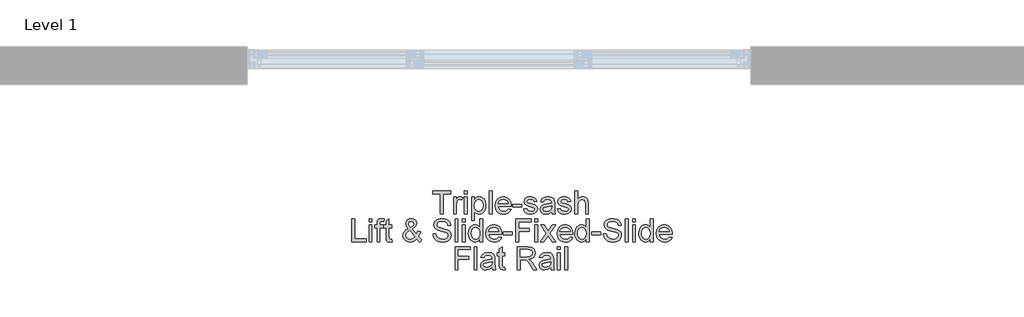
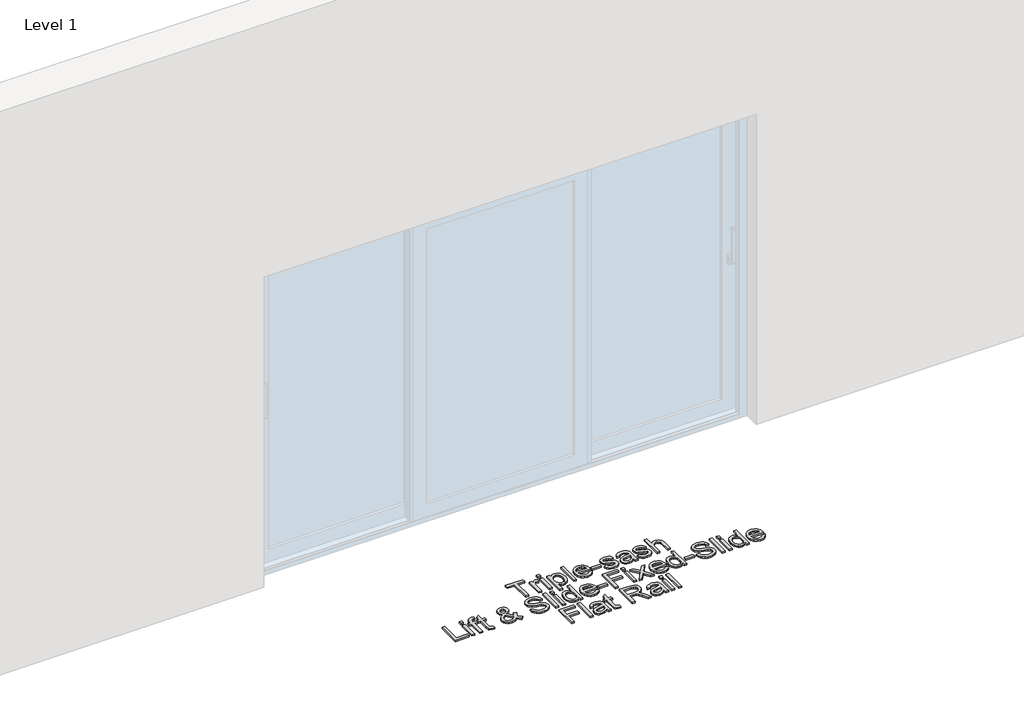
# One storey, part 9 of 11: 1 proxy.
"""IFC4 building model written with IfcOpenShell, lengths in millimetres."""

from ifc_helpers import new_model, si_unit, origin, origin_with_axes, place, context, project, spatial, polyline, outline, extrude, element, save

model = new_model("IFC4")

# Units and contexts
model_context = context("Model", 3, world=origin())
ifc_project = project(units=[si_unit("LENGTHUNIT", "METRE", prefix="MILLI")], contexts=[model_context])

# Site, building, storey
site = spatial("IfcSite", under=ifc_project)
building = spatial("IfcBuilding", under=site)
storey = spatial("IfcBuildingStorey", under=building, Name="Level 1", Elevation=0.0)

# Proxy
placement = place(None, origin())
element("IfcBuildingElementProxy", 1, Name="150mm Arial", ObjectType="150mm Arial", at=placement, inside=storey, context=model_context, shape_type="SweptSolid", body=[
    extrude(outline(polyline([(17344.4318001, -991.3626427), (17344.4318001, -859.5137356), (17294.98846, -859.5137356), (17294.98846, -840.6781775), (17412.7106984, -840.6781775), (17412.7106984, -859.5137356), (17363.2673583, -859.5137356), (17363.2673583, -991.3626427), (17344.4318001, -991.3626427)])), origin_with_axes(), (0.0, 0.0, 1.0), 10.0),
    extrude(outline(polyline([(17431.5462566, -991.3626427), (17431.5462566, -880.7037385), (17448.02737, -880.7037385), (17448.02737, -897.0744873), (17459.7260174, -881.9913255), (17471.4982413, -878.3492938), (17490.4073758, -884.1618293), (17484.1165937, -901.0476129), (17470.8728419, -897.1848519), (17460.2226581, -900.9004601), (17453.4352353, -911.2011559), (17450.3818147, -933.2004992), (17450.3818147, -991.3626427), (17431.5462566, -991.3626427)])), origin_with_axes(), (0.0, 0.0, 1.0), 10.0),
    extrude(outline(polyline([(17502.1795997, -859.5137356), (17502.1795997, -840.6781775), (17521.0151578, -840.6781775), (17521.0151578, -859.5137356), (17502.1795997, -859.5137356)])), origin_with_axes(), (0.0, 0.0, 1.0), 10.0),
    extrude(outline(polyline([(17502.1795997, -991.3626427), (17502.1795997, -880.7037385), (17521.0151578, -880.7037385), (17521.0151578, -991.3626427), (17502.1795997, -991.3626427)])), origin_with_axes(), (0.0, 0.0, 1.0), 10.0),
    extrude(outline(polyline([(17549.268495, -1033.7426485), (17549.268495, -880.7037385), (17568.1040532, -880.7037385), (17568.1040532, -899.1714147), (17581.1270758, -883.554824), (17598.7118352, -878.3492938), (17611.4497493, -880.1703096), (17622.5873767, -885.6333573), (17631.6556679, -894.4073429), (17638.1855733, -906.1611726), (17643.4462858, -935.187062), (17641.9609623, -951.2956949), (17637.5049916, -965.7028735), (17630.2209281, -977.6774325), (17620.251326, -986.4882062), (17608.6400505, -991.9098671), (17596.4309668, -993.7170875), (17580.0418239, -988.8794392), (17568.1040532, -976.6473629), (17568.1040532, -1033.7426485), (17549.268495, -1033.7426485)]), holes=[polyline([(17568.1040532, -936.9161074), (17570.1411997, -953.801891), (17576.2526394, -965.610903), (17585.2703468, -972.5638727), (17596.0262966, -974.8815293), (17606.9569904, -972.4810993), (17616.2046241, -965.2798092), (17622.5092018, -953.0385358), (17624.6107277, -935.5181558), (17622.5597855, -918.7243427), (17616.4069592, -906.7497838), (17607.4030473, -899.5760849), (17596.7988488, -897.1848519), (17586.1532636, -899.7278362), (17576.8044624, -907.3567891), (17570.2791555, -919.8325872), (17568.1040532, -936.9161074)])]), origin_with_axes(), (0.0, 0.0, 1.0), 10.0),
    extrude(outline(polyline([(17664.6362887, -991.3626427), (17664.6362887, -840.6781775), (17683.4718469, -840.6781775), (17683.4718469, -991.3626427), (17664.6362887, -991.3626427)])), origin_with_axes(), (0.0, 0.0, 1.0), 10.0),
    extrude(outline(polyline([(17789.2011323, -958.4004159), (17807.6688085, -960.7548607), (17801.0147429, -974.6699972), (17790.3967488, -985.0718606), (17776.0539495, -991.5557807), (17758.2254683, -993.7170875), (17736.1249574, -989.9876837), (17719.1196122, -978.7994725), (17708.2762904, -960.8790209), (17704.6618498, -936.9528956), (17708.3130786, -912.2220285), (17719.266765, -893.7267612), (17736.042184, -882.1936606), (17757.1586105, -878.3492938), (17777.617448, -882.1844636), (17793.9652041, -893.689973), (17804.6843658, -912.1484521), (17808.2574197, -936.842531), (17808.1470551, -941.9193025), (17723.497408, -941.9193025), (17726.7577621, -956.01838), (17734.3315327, -966.3834552), (17745.2622265, -972.7570108), (17758.5933503, -974.8815293), (17777.0610265, -970.9451919), (17789.2011323, -958.4004159)]), holes=[polyline([(17723.497408, -923.0837444), (17789.4218615, -923.0837444), (17786.8742787, -913.1325364), (17781.8802806, -906.0140198), (17770.899003, -899.3921439), (17757.0850341, -897.1848519), (17744.3885068, -898.946087), (17733.8900743, -904.2297921), (17726.5922152, -912.4657503), (17723.497408, -923.0837444)])]), origin_with_axes(), (0.0, 0.0, 1.0), 10.0),
    extrude(outline(polyline([(17817.6751987, -946.6281921), (17817.6751987, -927.7926339), (17876.536318, -927.7926339), (17876.536318, -946.6281921), (17817.6751987, -946.6281921)])), origin_with_axes(), (0.0, 0.0, 1.0), 10.0),
    extrude(outline(polyline([(17890.6629866, -958.4004159), (17909.4985447, -956.0459711), (17912.4691918, -964.1025868), (17918.217348, -970.025487), (17938.1933403, -974.8815293), (17957.3967805, -970.4301572), (17963.6507744, -959.9823085), (17962.0780789, -955.1814485), (17957.3599923, -951.5210226), (17937.9726112, -946.1499455), (17909.6089093, -936.9345015), (17897.2296802, -926.1739531), (17893.0174313, -910.9804267), (17896.4019457, -896.9457286), (17905.6357838, -886.2219685), (17917.6103427, -880.6485562), (17933.8155446, -878.3492938), (17956.7345929, -882.0465078), (17971.3027199, -892.0528981), (17977.777443, -908.9570758), (17958.9418849, -911.3115205), (17951.8601565, -900.9188542), (17935.2870726, -897.1848519), (17917.2608548, -900.7533073), (17911.8529895, -909.0674404), (17914.0970697, -914.5488821), (17921.1236158, -918.7059486), (17937.3472118, -922.7158624), (17964.9935437, -931.5818185), (17977.8326253, -941.6249969), (17982.4863326, -957.9957457), (17977.0232849, -976.0219635), (17961.2595414, -989.1001684), (17937.935823, -993.7170875), (17918.943915, -991.4914014), (17905.0839608, -984.8143432), (17895.8317286, -973.7594892), (17890.6629866, -958.4004159)])), origin_with_axes(), (0.0, 0.0, 1.0), 10.0),
    extrude(outline(polyline([(18074.3096786, -977.2359741), (18056.0443375, -990.0014793), (18035.8660101, -993.7170875), (18020.1252592, -991.4822043), (18008.5139837, -984.777555), (18001.3540804, -974.5964208), (17998.967446, -961.9320831), (18002.5726895, -947.0328623), (18012.0456509, -936.2171316), (18025.2342204, -930.0367141), (18041.5313928, -927.2040227), (18074.199314, -920.7292996), (18074.3096786, -916.5354449), (18073.0128945, -908.1293413), (18069.1225424, -902.6295054), (18060.4221332, -898.5460153), (18048.3004215, -897.1848519), (18029.2441342, -900.8084896), (18020.1574489, -913.6659653), (18001.3218907, -911.3115205), (18009.4704769, -892.9174208), (18025.8780139, -882.1384783), (18050.7284427, -878.3492938), (18073.5555205, -881.6970199), (18086.4497844, -890.1031235), (18092.2255317, -902.8870228), (18093.1452367, -919.3681362), (18093.1452367, -942.8022193), (18094.1017299, -975.5253228), (18097.8541263, -991.3626427), (18079.0185681, -991.3626427), (18074.3096786, -977.2359741)]), holes=[polyline([(18074.3096786, -939.5648578), (18043.9226258, -945.3406051), (18027.7174239, -948.3940256), (18020.3781781, -953.3604326), (18017.8030041, -960.6077079), (18023.4132045, -970.7980392), (18039.8759238, -974.8815293), (18058.9322112, -970.3749749), (18071.2194698, -959.4672737), (18074.199314, -944.8991467), (18074.3096786, -939.5648578)])]), origin_with_axes(), (0.0, 0.0, 1.0), 10.0),
    extrude(outline(polyline([(18111.9807949, -958.4004159), (18130.816353, -956.0459711), (18133.7870001, -964.1025868), (18139.5351563, -970.025487), (18159.5111486, -974.8815293), (18178.7145888, -970.4301572), (18184.9685827, -959.9823085), (18183.3958872, -955.1814485), (18178.6778006, -951.5210226), (18159.2904195, -946.1499455), (18130.9267176, -936.9345015), (18118.5474885, -926.1739531), (18114.3352396, -910.9804267), (18117.719754, -896.9457286), (18126.9535921, -886.2219685), (18138.928151, -880.6485562), (18155.1333529, -878.3492938), (18178.0524012, -882.0465078), (18192.6205282, -892.0528981), (18199.0952513, -908.9570758), (18180.2596932, -911.3115205), (18173.1779648, -900.9188542), (18156.6048809, -897.1848519), (18138.5786631, -900.7533073), (18133.1707978, -909.0674404), (18135.414878, -914.5488821), (18142.4414241, -918.7059486), (18158.6650201, -922.7158624), (18186.311352, -931.5818185), (18199.1504336, -941.6249969), (18203.8041409, -957.9957457), (18198.3410932, -976.0219635), (18182.5773497, -989.1001684), (18159.2536313, -993.7170875), (18140.2617232, -991.4914014), (18126.4017691, -984.8143432), (18117.1495369, -973.7594892), (18111.9807949, -958.4004159)])), origin_with_axes(), (0.0, 0.0, 1.0), 10.0),
    extrude(outline(polyline([(18224.9941438, -991.3626427), (18224.9941438, -840.6781775), (18243.8297019, -840.6781775), (18243.8297019, -896.0812059), (18258.5173906, -882.7822718), (18276.6079877, -878.3492938), (18297.7612024, -883.186942), (18310.6002841, -896.5594525), (18314.463045, -921.3179108), (18314.463045, -991.3626427), (18295.6274869, -991.3626427), (18295.6274869, -923.2676854), (18294.1283677, -911.4770674), (18289.6310103, -903.4020576), (18282.383735, -898.7391533), (18272.6348622, -897.1848519), (18257.2022125, -901.3787067), (18246.9015166, -912.7462603), (18243.8297019, -932.5750999), (18243.8297019, -991.3626427), (18224.9941438, -991.3626427)])), origin_with_axes(), (0.0, 0.0, 1.0), 10.0),
    extrude(outline(polyline([(16765.2383869, -1174.3248694), (16765.2383869, -1023.6404042), (16784.0739451, -1023.6404042), (16784.0739451, -1155.4893113), (16859.4161777, -1155.4893113), (16859.4161777, -1174.3248694), (16765.2383869, -1174.3248694)])), origin_with_axes(), (0.0, 0.0, 1.0), 10.0),
    extrude(outline(polyline([(16878.2517358, -1042.4759624), (16878.2517358, -1023.6404042), (16897.087294, -1023.6404042), (16897.087294, -1042.4759624), (16878.2517358, -1042.4759624)])), origin_with_axes(), (0.0, 0.0, 1.0), 10.0),
    extrude(outline(polyline([(16878.2517358, -1174.3248694), (16878.2517358, -1063.6659653), (16897.087294, -1063.6659653), (16897.087294, -1174.3248694), (16878.2517358, -1174.3248694)])), origin_with_axes(), (0.0, 0.0, 1.0), 10.0),
    extrude(outline(polyline([(16930.0495208, -1174.3248694), (16930.0495208, -1082.5015235), (16913.5684074, -1082.5015235), (16913.5684074, -1063.6659653), (16930.0495208, -1063.6659653), (16930.0495208, -1052.5191408), (16932.0360835, -1036.8105797), (16941.6745918, -1025.5901788), (16960.6573028, -1021.2859595), (16977.8373919, -1023.3460986), (16975.078277, -1041.0044344), (16964.2257581, -1040.1215176), (16952.3615638, -1043.2485146), (16948.8850789, -1054.9103738), (16948.8850789, -1063.6659653), (16970.0750818, -1063.6659653), (16970.0750818, -1082.5015235), (16948.8850789, -1082.5015235), (16948.8850789, -1174.3248694), (16930.0495208, -1174.3248694)])), origin_with_axes(), (0.0, 0.0, 1.0), 10.0),
    extrude(outline(polyline([(17026.5817563, -1158.6163083), (17028.9362011, -1174.8766924), (17014.8463207, -1176.6793142), (16999.0641831, -1173.5523173), (16991.1915084, -1165.3485488), (16988.91064, -1143.9746048), (16988.91064, -1082.5015235), (16974.7839714, -1082.5015235), (16974.7839714, -1063.6659653), (16988.91064, -1063.6659653), (16988.91064, -1036.7737915), (17007.7461981, -1025.7005434), (17007.7461981, -1063.6659653), (17026.5817563, -1063.6659653), (17026.5817563, -1082.5015235), (17007.7461981, -1082.5015235), (17007.7461981, -1143.4227819), (17008.7394795, -1153.1348665), (17011.958447, -1156.5745632), (17018.3779878, -1157.8437561), (17026.5817563, -1158.6163083)])), origin_with_axes(), (0.0, 0.0, 1.0), 10.0),
    extrude(outline(polyline([(17190.6939143, -1155.7100405), (17170.717922, -1171.4369958), (17147.3574153, -1176.6793142), (17126.5720826, -1172.7981592), (17110.5692158, -1161.154694), (17102.3194621, -1147.7545923), (17099.5695441, -1132.8645686), (17101.7814346, -1119.666802), (17108.4171061, -1107.8118047), (17119.4489675, -1097.3087738), (17134.8494275, -1088.1669062), (17121.6976462, -1069.1106188), (17118.4051023, -1054.9839502), (17120.9986704, -1042.2644302), (17128.7793746, -1031.3291379), (17140.4872191, -1023.7967541), (17154.862208, -1021.2859595), (17168.5382212, -1023.6863895), (17179.4735135, -1030.8876795), (17186.6472124, -1041.4550898), (17189.0384454, -1053.9538806), (17187.2680133, -1064.4477145), (17181.956717, -1074.1506022), (17160.7115317, -1091.1835385), (17187.9715876, -1125.1390467), (17196.1017797, -1104.2801376), (17214.9373378, -1108.3636277), (17201.6200096, -1139.3760799), (17224.3551169, -1162.1847636), (17210.2284483, -1176.6793142), (17190.6939143, -1155.7100405)]), holes=[polyline([(17151.1833881, -1079.3009501), (17166.6712201, -1067.6206967), (17170.2028872, -1056.5290546), (17165.54918, -1044.7016484), (17153.9057148, -1040.1215176), (17142.0047323, -1044.6648602), (17137.2406604, -1055.7565024), (17138.8593412, -1062.6542898), (17143.7521718, -1070.3246294), (17151.1833881, -1079.3009501)]), polyline([(17178.0755619, -1142.1351949), (17144.4511476, -1100.1598592), (17123.7577853, -1115.9419968), (17118.4051023, -1130.362971), (17120.2353152, -1139.2473212), (17125.725954, -1148.4627652), (17134.573516, -1155.4985083), (17146.4744985, -1157.8437561), (17163.7833464, -1153.4659603), (17178.0755619, -1142.1351949)])]), origin_with_axes(), (0.0, 0.0, 1.0), 10.0),
    extrude(outline(polyline([(17297.3429048, -1122.5270845), (17316.1784629, -1122.5270845), (17322.2485158, -1141.3810368), (17337.0741602, -1153.3004134), (17359.6621147, -1157.8437561), (17379.3438015, -1154.4040594), (17392.0541244, -1144.9494921), (17396.2295851, -1132.3127456), (17393.1025881, -1120.5589159), (17380.3002947, -1112.0056595), (17352.8746919, -1104.8135665), (17323.3521618, -1095.5245461), (17307.3309009, -1081.5082421), (17302.0517943, -1062.7830485), (17303.6842706, -1051.7511872), (17308.5816997, -1041.4642869), (17316.6153228, -1032.7454836), (17327.6563812, -1026.4179133), (17355.5786246, -1021.2859595), (17385.3770662, -1026.6570366), (17396.7998021, -1033.2881095), (17405.2426939, -1042.4391742), (17410.5861799, -1053.5400134), (17412.7106984, -1066.0204101), (17393.8751403, -1066.0204101), (17390.4170495, -1054.7816151), (17383.2065624, -1046.6698171), (17371.9401763, -1041.7585925), (17356.3143886, -1040.1215176), (17340.3207188, -1041.7401984), (17329.3486383, -1046.5962407), (17323.0026739, -1053.7423485), (17320.8873524, -1062.2312255), (17322.3864716, -1069.4693038), (17326.883829, -1075.2910363), (17357.6387638, -1085.8124614), (17390.9688725, -1095.2670287), (17401.7064283, -1102.1004367), (17409.1974254, -1110.5341315), (17413.5982138, -1120.4761424), (17415.0651432, -1131.834499), (17413.3774846, -1143.4457745), (17408.3145086, -1154.3672712), (17400.083149, -1163.7666562), (17388.8903393, -1170.8115964), (17375.4304568, -1175.2123848), (17360.3978787, -1176.6793142), (17341.9439981, -1175.0974216), (17326.7550703, -1170.3517439), (17314.6563511, -1162.4238869), (17305.4730968, -1151.2954566), (17299.5777879, -1137.739005), (17297.3429048, -1122.5270845)])), origin_with_axes(), (0.0, 0.0, 1.0), 10.0),
    extrude(outline(polyline([(17440.9640357, -1174.3248694), (17440.9640357, -1023.6404042), (17459.7995938, -1023.6404042), (17459.7995938, -1174.3248694), (17440.9640357, -1174.3248694)])), origin_with_axes(), (0.0, 0.0, 1.0), 10.0),
    extrude(outline(polyline([(17488.0529311, -1042.4759624), (17488.0529311, -1023.6404042), (17506.8884892, -1023.6404042), (17506.8884892, -1042.4759624), (17488.0529311, -1042.4759624)])), origin_with_axes(), (0.0, 0.0, 1.0), 10.0),
    extrude(outline(polyline([(17488.0529311, -1174.3248694), (17488.0529311, -1063.6659653), (17506.8884892, -1063.6659653), (17506.8884892, -1174.3248694), (17488.0529311, -1174.3248694)])), origin_with_axes(), (0.0, 0.0, 1.0), 10.0),
    extrude(outline(polyline([(17603.4207247, -1174.3248694), (17603.4207247, -1156.5561691), (17590.9587222, -1171.6485279), (17573.7326477, -1176.6793142), (17561.5557537, -1174.8582983), (17550.4089292, -1169.3952507), (17540.9727561, -1160.6718489), (17533.9278158, -1149.0697705), (17529.5408231, -1135.058065), (17528.0784921, -1119.105782), (17533.4679634, -1089.1233994), (17540.2002039, -1077.2316139), (17549.6179829, -1068.4852194), (17561.0085292, -1063.1049453), (17573.6590713, -1061.3115205), (17591.0231015, -1066.4434744), (17603.4207247, -1079.7791967), (17603.4207247, -1023.6404042), (17622.2562829, -1023.6404042), (17622.2562829, -1174.3248694), (17603.4207247, -1174.3248694)]), holes=[polyline([(17546.9140503, -1119.0322056), (17549.0385688, -1136.0697405), (17555.4121244, -1148.1868537), (17564.6735536, -1155.4295305), (17575.4616931, -1157.8437561), (17586.2452341, -1155.5398951), (17595.2721385, -1148.6283121), (17601.3835782, -1136.9802484), (17603.4207247, -1120.4669454), (17601.34679, -1102.4131364), (17595.1249857, -1089.8959516), (17585.868155, -1082.5842969), (17574.6891409, -1080.1470787), (17563.7906368, -1082.4877279), (17554.8603014, -1089.5096755), (17548.9006131, -1101.5716064), (17546.9140503, -1119.0322056)])]), origin_with_axes(), (0.0, 0.0, 1.0), 10.0),
    extrude(outline(polyline([(17727.9855683, -1141.3626427), (17746.4532445, -1143.7170875), (17739.7991789, -1157.6322239), (17729.1811848, -1168.0340873), (17714.8383855, -1174.5180075), (17697.0099043, -1176.6793142), (17674.9093935, -1172.9499105), (17657.9040482, -1161.7616993), (17647.0607264, -1143.8412476), (17643.4462858, -1119.9151224), (17647.0975146, -1095.1842552), (17658.051201, -1076.6889879), (17674.82662, -1065.1558874), (17695.9430465, -1061.3115205), (17716.401884, -1065.1466903), (17732.7496401, -1076.6521997), (17743.4688018, -1095.1106788), (17747.0418557, -1119.8047578), (17746.9314911, -1124.8815293), (17662.281844, -1124.8815293), (17665.5421981, -1138.9806068), (17673.1159687, -1149.345682), (17684.0466625, -1155.7192375), (17697.3777863, -1157.8437561), (17715.8454625, -1153.9074187), (17727.9855683, -1141.3626427)]), holes=[polyline([(17662.281844, -1106.0459711), (17728.2062975, -1106.0459711), (17725.6587147, -1096.0947632), (17720.6647166, -1088.9762466), (17709.683439, -1082.3543707), (17695.8694701, -1080.1470787), (17683.1729428, -1081.9083137), (17672.6745103, -1087.1920189), (17665.3766513, -1095.4279771), (17662.281844, -1106.0459711)])]), origin_with_axes(), (0.0, 0.0, 1.0), 10.0),
    extrude(outline(polyline([(17756.4596347, -1129.5904188), (17756.4596347, -1110.7548607), (17815.320754, -1110.7548607), (17815.320754, -1129.5904188), (17756.4596347, -1129.5904188)])), origin_with_axes(), (0.0, 0.0, 1.0), 10.0),
    extrude(outline(polyline([(17838.8652017, -1174.3248694), (17838.8652017, -1023.6404042), (17940.1063267, -1023.6404042), (17940.1063267, -1042.4759624), (17857.7007598, -1042.4759624), (17857.7007598, -1087.210413), (17928.3341029, -1087.210413), (17928.3341029, -1106.0459711), (17857.7007598, -1106.0459711), (17857.7007598, -1174.3248694), (17838.8652017, -1174.3248694)])), origin_with_axes(), (0.0, 0.0, 1.0), 10.0),
    extrude(outline(polyline([(17963.6507744, -1042.4759624), (17963.6507744, -1023.6404042), (17982.4863326, -1023.6404042), (17982.4863326, -1042.4759624), (17963.6507744, -1042.4759624)])), origin_with_axes(), (0.0, 0.0, 1.0), 10.0),
    extrude(outline(polyline([(17963.6507744, -1174.3248694), (17963.6507744, -1063.6659653), (17982.4863326, -1063.6659653), (17982.4863326, -1174.3248694), (17963.6507744, -1174.3248694)])), origin_with_axes(), (0.0, 0.0, 1.0), 10.0),
    extrude(outline(polyline([(17998.967446, -1174.3248694), (18039.2137362, -1118.7011118), (18001.3218907, -1063.6659653), (18023.9834216, -1063.6659653), (18042.2671568, -1090.153469), (18050.8020191, -1102.6614568), (18058.1964472, -1092.4343373), (18079.0185681, -1063.6659653), (18101.680099, -1063.6659653), (18061.8752671, -1118.7011118), (18100.208571, -1174.3248694), (18077.5470401, -1174.3248694), (18054.480839, -1140.8843961), (18050.2501961, -1134.777555), (18021.6289769, -1174.3248694), (17998.967446, -1174.3248694)])), origin_with_axes(), (0.0, 0.0, 1.0), 10.0),
    extrude(outline(polyline([(18194.1656326, -1141.3626427), (18212.6333088, -1143.7170875), (18205.9792432, -1157.6322239), (18195.3612491, -1168.0340873), (18181.0184498, -1174.5180075), (18163.1899686, -1176.6793142), (18141.0894577, -1172.9499105), (18124.0841125, -1161.7616993), (18113.2407907, -1143.8412476), (18109.6263501, -1119.9151224), (18113.2775789, -1095.1842552), (18124.2312653, -1076.6889879), (18141.0066843, -1065.1558874), (18162.1231108, -1061.3115205), (18182.5819483, -1065.1466903), (18198.9297044, -1076.6521997), (18209.6488661, -1095.1106788), (18213.2219199, -1119.8047578), (18213.1115553, -1124.8815293), (18128.4619083, -1124.8815293), (18131.7222624, -1138.9806068), (18139.296033, -1149.345682), (18150.2267268, -1155.7192375), (18163.5578506, -1157.8437561), (18182.0255268, -1153.9074187), (18194.1656326, -1141.3626427)]), holes=[polyline([(18128.4619083, -1106.0459711), (18194.3863618, -1106.0459711), (18191.838779, -1096.0947632), (18186.8447809, -1088.9762466), (18175.8635033, -1082.3543707), (18162.0495344, -1080.1470787), (18149.3530071, -1081.9083137), (18138.8545746, -1087.1920189), (18131.5567155, -1095.4279771), (18128.4619083, -1106.0459711)])]), origin_with_axes(), (0.0, 0.0, 1.0), 10.0),
    extrude(outline(polyline([(18300.3363764, -1174.3248694), (18300.3363764, -1156.5561691), (18287.8743738, -1171.6485279), (18270.6482994, -1176.6793142), (18258.4714053, -1174.8582983), (18247.3245809, -1169.3952507), (18237.8884077, -1160.6718489), (18230.8434675, -1149.0697705), (18226.4564747, -1135.058065), (18224.9941438, -1119.105782), (18230.383615, -1089.1233994), (18237.1158555, -1077.2316139), (18246.5336346, -1068.4852194), (18257.9241809, -1063.1049453), (18270.574723, -1061.3115205), (18287.9387532, -1066.4434744), (18300.3363764, -1079.7791967), (18300.3363764, -1023.6404042), (18319.1719346, -1023.6404042), (18319.1719346, -1174.3248694), (18300.3363764, -1174.3248694)]), holes=[polyline([(18243.8297019, -1119.0322056), (18245.9542205, -1136.0697405), (18252.327776, -1148.1868537), (18261.5892053, -1155.4295305), (18272.3773448, -1157.8437561), (18283.1608858, -1155.5398951), (18292.1877902, -1148.6283121), (18298.2992299, -1136.9802484), (18300.3363764, -1120.4669454), (18298.2624417, -1102.4131364), (18292.0406374, -1089.8959516), (18282.7838067, -1082.5842969), (18271.6047926, -1080.1470787), (18260.7062885, -1082.4877279), (18251.775953, -1089.5096755), (18245.8162647, -1101.5716064), (18243.8297019, -1119.0322056)])]), origin_with_axes(), (0.0, 0.0, 1.0), 10.0),
    extrude(outline(polyline([(18338.0074927, -1129.5904188), (18338.0074927, -1110.7548607), (18396.8686119, -1110.7548607), (18396.8686119, -1129.5904188), (18338.0074927, -1129.5904188)])), origin_with_axes(), (0.0, 0.0, 1.0), 10.0),
    extrude(outline(polyline([(18413.3497253, -1122.5270845), (18432.1852835, -1122.5270845), (18438.2553364, -1141.3810368), (18453.0809808, -1153.3004134), (18475.6689353, -1157.8437561), (18495.350622, -1154.4040594), (18508.060945, -1144.9494921), (18512.2364056, -1132.3127456), (18509.1094087, -1120.5589159), (18496.3071152, -1112.0056595), (18468.8815125, -1104.8135665), (18439.3589824, -1095.5245461), (18423.3377215, -1081.5082421), (18418.0586149, -1062.7830485), (18419.6910912, -1051.7511872), (18424.5885203, -1041.4642869), (18432.6221433, -1032.7454836), (18443.6632017, -1026.4179133), (18471.5854452, -1021.2859595), (18501.3838868, -1026.6570366), (18512.8066227, -1033.2881095), (18521.2495145, -1042.4391742), (18526.5930005, -1053.5400134), (18528.717519, -1066.0204101), (18509.8819609, -1066.0204101), (18506.4238701, -1054.7816151), (18499.213383, -1046.6698171), (18487.9469969, -1041.7585925), (18472.3212091, -1040.1215176), (18456.3275394, -1041.7401984), (18445.3554589, -1046.5962407), (18439.0094945, -1053.7423485), (18436.894173, -1062.2312255), (18438.3932921, -1069.4693038), (18442.8906495, -1075.2910363), (18473.6455843, -1085.8124614), (18506.9756931, -1095.2670287), (18517.7132488, -1102.1004367), (18525.204246, -1110.5341315), (18529.6050343, -1120.4761424), (18531.0719638, -1131.834499), (18529.3843051, -1143.4457745), (18524.3213292, -1154.3672712), (18516.0899695, -1163.7666562), (18504.8971598, -1170.8115964), (18491.4372773, -1175.2123848), (18476.4046993, -1176.6793142), (18457.9508187, -1175.0974216), (18442.7618908, -1170.3517439), (18430.6631717, -1162.4238869), (18421.4799174, -1151.2954566), (18415.5846084, -1137.739005), (18413.3497253, -1122.5270845)])), origin_with_axes(), (0.0, 0.0, 1.0), 10.0),
    extrude(outline(polyline([(18556.9708562, -1174.3248694), (18556.9708562, -1023.6404042), (18575.8064144, -1023.6404042), (18575.8064144, -1174.3248694), (18556.9708562, -1174.3248694)])), origin_with_axes(), (0.0, 0.0, 1.0), 10.0),
    extrude(outline(polyline([(18604.0597516, -1042.4759624), (18604.0597516, -1023.6404042), (18622.8953098, -1023.6404042), (18622.8953098, -1042.4759624), (18604.0597516, -1042.4759624)])), origin_with_axes(), (0.0, 0.0, 1.0), 10.0),
    extrude(outline(polyline([(18604.0597516, -1174.3248694), (18604.0597516, -1063.6659653), (18622.8953098, -1063.6659653), (18622.8953098, -1174.3248694), (18604.0597516, -1174.3248694)])), origin_with_axes(), (0.0, 0.0, 1.0), 10.0),
    extrude(outline(polyline([(18719.4275453, -1174.3248694), (18719.4275453, -1156.5561691), (18706.9655427, -1171.6485279), (18689.7394683, -1176.6793142), (18677.5625743, -1174.8582983), (18666.4157498, -1169.3952507), (18656.9795766, -1160.6718489), (18649.9346364, -1149.0697705), (18645.5476436, -1135.058065), (18644.0853127, -1119.105782), (18649.4747839, -1089.1233994), (18656.2070244, -1077.2316139), (18665.6248035, -1068.4852194), (18677.0153498, -1063.1049453), (18689.6658919, -1061.3115205), (18707.0299221, -1066.4434744), (18719.4275453, -1079.7791967), (18719.4275453, -1023.6404042), (18738.2631035, -1023.6404042), (18738.2631035, -1174.3248694), (18719.4275453, -1174.3248694)]), holes=[polyline([(18662.9208708, -1119.0322056), (18665.0453894, -1136.0697405), (18671.4189449, -1148.1868537), (18680.6803742, -1155.4295305), (18691.4685137, -1157.8437561), (18702.2520547, -1155.5398951), (18711.2789591, -1148.6283121), (18717.3903988, -1136.9802484), (18719.4275453, -1120.4669454), (18717.3536106, -1102.4131364), (18711.1318063, -1089.8959516), (18701.8749756, -1082.5842969), (18690.6959615, -1080.1470787), (18679.7974574, -1082.4877279), (18670.8671219, -1089.5096755), (18664.9074336, -1101.5716064), (18662.9208708, -1119.0322056)])]), origin_with_axes(), (0.0, 0.0, 1.0), 10.0),
    extrude(outline(polyline([(18843.9923889, -1141.3626427), (18862.460065, -1143.7170875), (18855.8059994, -1157.6322239), (18845.1880054, -1168.0340873), (18830.8452061, -1174.5180075), (18813.0167249, -1176.6793142), (18790.916214, -1172.9499105), (18773.9108688, -1161.7616993), (18763.067547, -1143.8412476), (18759.4531064, -1119.9151224), (18763.1043352, -1095.1842552), (18774.0580216, -1076.6889879), (18790.8334406, -1065.1558874), (18811.9498671, -1061.3115205), (18832.4087045, -1065.1466903), (18848.7564607, -1076.6521997), (18859.4756223, -1095.1106788), (18863.0486762, -1119.8047578), (18862.9383116, -1124.8815293), (18778.2886645, -1124.8815293), (18781.5490187, -1138.9806068), (18789.1227893, -1149.345682), (18800.0534831, -1155.7192375), (18813.3846069, -1157.8437561), (18831.852283, -1153.9074187), (18843.9923889, -1141.3626427)]), holes=[polyline([(18778.2886645, -1106.0459711), (18844.2131181, -1106.0459711), (18841.6655353, -1096.0947632), (18836.6715372, -1088.9762466), (18825.6902596, -1082.3543707), (18811.8762907, -1080.1470787), (18799.1797633, -1081.9083137), (18788.6813309, -1087.1920189), (18781.3834718, -1095.4279771), (18778.2886645, -1106.0459711)])]), origin_with_axes(), (0.0, 0.0, 1.0), 10.0),
    extrude(outline(polyline([(17440.9640357, -1357.2870962), (17440.9640357, -1206.602631), (17542.2051607, -1206.602631), (17542.2051607, -1225.4381891), (17459.7995938, -1225.4381891), (17459.7995938, -1270.1726398), (17530.4329369, -1270.1726398), (17530.4329369, -1289.0081979), (17459.7995938, -1289.0081979), (17459.7995938, -1357.2870962), (17440.9640357, -1357.2870962)])), origin_with_axes(), (0.0, 0.0, 1.0), 10.0),
    extrude(outline(polyline([(17565.7496084, -1357.2870962), (17565.7496084, -1206.602631), (17584.5851666, -1206.602631), (17584.5851666, -1357.2870962), (17565.7496084, -1357.2870962)])), origin_with_axes(), (0.0, 0.0, 1.0), 10.0),
    extrude(outline(polyline([(17683.4718469, -1343.1604276), (17665.2065058, -1355.9259328), (17645.0281784, -1359.641541), (17629.2874275, -1357.4066579), (17617.6761521, -1350.7020085), (17610.5162487, -1340.5208743), (17608.1296143, -1327.8565366), (17611.7348578, -1312.9573158), (17621.2078192, -1302.1415851), (17634.3963887, -1295.9611676), (17650.6935611, -1293.1284763), (17683.3614823, -1286.6537531), (17683.4718469, -1282.4598984), (17682.1750629, -1274.0537948), (17678.2847108, -1268.553959), (17669.5843016, -1264.4704688), (17657.4625898, -1263.1093055), (17638.4063025, -1266.7329431), (17629.3196172, -1279.5904188), (17610.484059, -1277.2359741), (17618.6326452, -1258.8418743), (17635.0401822, -1248.0629318), (17659.890611, -1244.2737473), (17682.7176888, -1247.6214735), (17695.6119527, -1256.027577), (17701.3877001, -1268.8114764), (17702.307405, -1285.2925898), (17702.307405, -1308.7266729), (17703.2638982, -1341.4497763), (17707.0162946, -1357.2870962), (17688.1807364, -1357.2870962), (17683.4718469, -1343.1604276)]), holes=[polyline([(17683.4718469, -1305.4893113), (17653.0847941, -1311.2650586), (17636.8795922, -1314.3184792), (17629.5403464, -1319.2848861), (17626.9651724, -1326.5321614), (17632.5753729, -1336.7224927), (17649.0380921, -1340.8059828), (17668.0943795, -1336.2994284), (17680.3816381, -1325.3917272), (17683.3614823, -1310.8236002), (17683.4718469, -1305.4893113)])]), origin_with_axes(), (0.0, 0.0, 1.0), 10.0),
    extrude(outline(polyline([(17768.2318586, -1341.578535), (17770.5863033, -1357.8389192), (17756.4964229, -1359.641541), (17740.7142853, -1356.514544), (17732.8416106, -1348.3107755), (17730.5607423, -1326.9368316), (17730.5607423, -1265.4637502), (17716.4340737, -1265.4637502), (17716.4340737, -1246.6281921), (17730.5607423, -1246.6281921), (17730.5607423, -1219.7360182), (17749.3963004, -1208.6627702), (17749.3963004, -1246.6281921), (17768.2318586, -1246.6281921), (17768.2318586, -1265.4637502), (17749.3963004, -1265.4637502), (17749.3963004, -1326.3850086), (17750.3895818, -1336.0970933), (17753.6085493, -1339.5367899), (17760.0280901, -1340.8059828), (17768.2318586, -1341.578535)])), origin_with_axes(), (0.0, 0.0, 1.0), 10.0),
    extrude(outline(polyline([(17848.2829807, -1357.2870962), (17848.2829807, -1206.602631), (17913.2141529, -1206.602631), (17943.3620824, -1210.667727), (17952.6419057, -1216.2963216), (17959.8431958, -1225.0519131), (17964.4647133, -1235.9090304), (17966.0052192, -1247.8422027), (17963.4530378, -1262.6862412), (17955.7964938, -1274.9918939), (17942.8056609, -1284.0141998), (17924.2506127, -1289.0081979), (17934.9559788, -1297.0648136), (17950.2230816, -1316.4521948), (17975.3494219, -1357.2870962), (17953.4604431, -1357.2870962), (17933.8523328, -1326.0539148), (17919.688876, -1305.3789467), (17909.737668, -1295.6116797), (17900.7797414, -1292.0248303), (17889.8536462, -1291.3626427), (17867.1185389, -1291.3626427), (17867.1185389, -1357.2870962), (17848.2829807, -1357.2870962)]), holes=[polyline([(17867.1185389, -1272.5270845), (17909.2778155, -1272.5270845), (17930.7805181, -1269.8599401), (17942.9942004, -1261.3250778), (17947.169661, -1248.5411784), (17945.1784997, -1239.3533256), (17939.2050158, -1231.9497005), (17928.9273126, -1227.066067), (17914.0234933, -1225.4381891), (17867.1185389, -1225.4381891), (17867.1185389, -1272.5270845)])]), origin_with_axes(), (0.0, 0.0, 1.0), 10.0),
    extrude(outline(polyline([(18067.2463443, -1343.1604276), (18048.9810032, -1355.9259328), (18028.8026758, -1359.641541), (18013.0619249, -1357.4066579), (18001.4506494, -1350.7020085), (17994.2907461, -1340.5208743), (17991.9041116, -1327.8565366), (17995.5093552, -1312.9573158), (18004.9823166, -1302.1415851), (18018.1708861, -1295.9611676), (18034.4680585, -1293.1284763), (18067.1359797, -1286.6537531), (18067.2463443, -1282.4598984), (18065.9495602, -1274.0537948), (18062.0592081, -1268.553959), (18053.3587989, -1264.4704688), (18041.2370872, -1263.1093055), (18022.1807998, -1266.7329431), (18013.0941146, -1279.5904188), (17994.2585564, -1277.2359741), (18002.4071426, -1258.8418743), (18018.8146796, -1248.0629318), (18043.6651084, -1244.2737473), (18066.4921862, -1247.6214735), (18079.3864501, -1256.027577), (18085.1621974, -1268.8114764), (18086.0819024, -1285.2925898), (18086.0819024, -1308.7266729), (18087.0383956, -1341.4497763), (18090.7907919, -1357.2870962), (18071.9552338, -1357.2870962), (18067.2463443, -1343.1604276)]), holes=[polyline([(18067.2463443, -1305.4893113), (18036.8592915, -1311.2650586), (18020.6540896, -1314.3184792), (18013.3148438, -1319.2848861), (18010.7396698, -1326.5321614), (18016.3498702, -1336.7224927), (18032.8125895, -1340.8059828), (18051.8688769, -1336.2994284), (18064.1561355, -1325.3917272), (18067.1359797, -1310.8236002), (18067.2463443, -1305.4893113)])]), origin_with_axes(), (0.0, 0.0, 1.0), 10.0),
    extrude(outline(polyline([(18111.9807949, -1225.4381891), (18111.9807949, -1206.602631), (18130.816353, -1206.602631), (18130.816353, -1225.4381891), (18111.9807949, -1225.4381891)])), origin_with_axes(), (0.0, 0.0, 1.0), 10.0),
    extrude(outline(polyline([(18111.9807949, -1357.2870962), (18111.9807949, -1246.6281921), (18130.816353, -1246.6281921), (18130.816353, -1357.2870962), (18111.9807949, -1357.2870962)])), origin_with_axes(), (0.0, 0.0, 1.0), 10.0),
    extrude(outline(polyline([(18159.0696903, -1357.2870962), (18159.0696903, -1206.602631), (18177.9052484, -1206.602631), (18177.9052484, -1357.2870962), (18159.0696903, -1357.2870962)])), origin_with_axes(), (0.0, 0.0, 1.0), 10.0),
])

save(model, "model.ifc")
